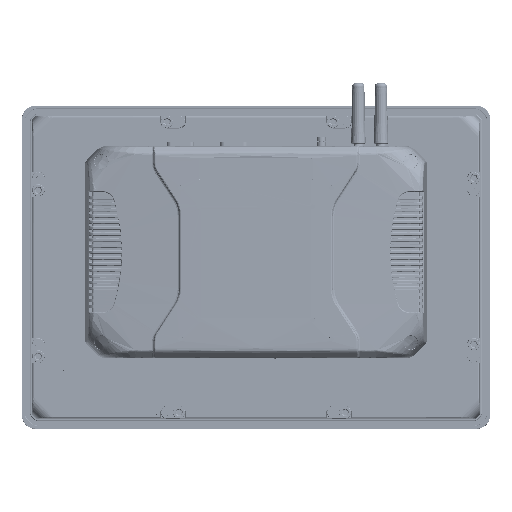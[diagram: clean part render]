
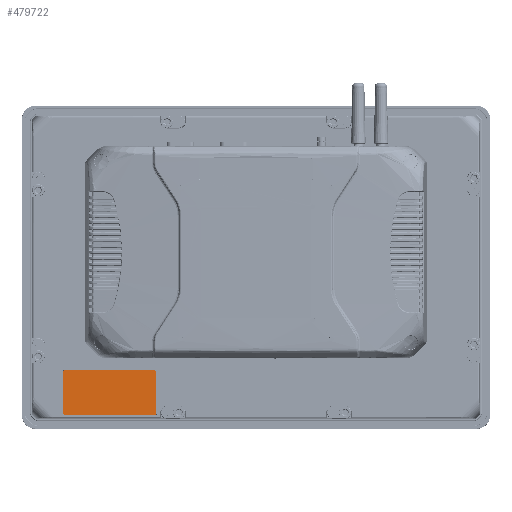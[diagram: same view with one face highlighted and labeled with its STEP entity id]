
A CAD part, top view. The second image highlights one B-rep face of the part: STEP entity #479722.
In plain terms, the highlighted planar face has unit normal (0, 0, 1).
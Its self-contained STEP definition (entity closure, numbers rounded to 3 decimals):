
#2326 = CARTESIAN_POINT ( 'NONE',  ( -132.615, -107.378, 319.75 ) ) ;
#2978 = CIRCLE ( 'NONE', #361884, 1. ) ;
#21067 = VERTEX_POINT ( 'NONE', #356686 ) ;
#33619 = DIRECTION ( 'NONE',  ( 0., 0., 1. ) ) ;
#52627 = DIRECTION ( 'NONE',  ( 0., 0., -1. ) ) ;
#62251 = ORIENTED_EDGE ( 'NONE', *, *, #161974, .T. ) ;
#67160 = VERTEX_POINT ( 'NONE', #2326 ) ;
#90164 = EDGE_CURVE ( 'NONE', #396988, #427215, #455721, .T. ) ;
#138700 = DIRECTION ( 'NONE',  ( 0., 0., 1. ) ) ;
#139627 = CARTESIAN_POINT ( 'NONE',  ( -72.015, -107.378, 319.75 ) ) ;
#150854 = DIRECTION ( 'NONE',  ( 0., 1., 0. ) ) ;
#161974 = EDGE_CURVE ( 'NONE', #198452, #67160, #371349, .T. ) ;
#163643 = FACE_OUTER_BOUND ( 'NONE', #334667, .T. ) ;
#172226 = CARTESIAN_POINT ( 'NONE',  ( -72.015, -78.778, 319.75 ) ) ;
#190777 = DIRECTION ( 'NONE',  ( 1., 0., 0. ) ) ;
#198452 = VERTEX_POINT ( 'NONE', #341198 ) ;
#198915 = DIRECTION ( 'NONE',  ( 0., 0., 1. ) ) ;
#202899 = CARTESIAN_POINT ( 'NONE',  ( -133.615, -78.778, 319.75 ) ) ;
#217426 = DIRECTION ( 'NONE',  ( -1., 0., 0. ) ) ;
#219895 = CARTESIAN_POINT ( 'NONE',  ( -133.615, -107.378, 319.75 ) ) ;
#235434 = CARTESIAN_POINT ( 'NONE',  ( -73.015, -106.378, 319.75 ) ) ;
#240295 = CIRCLE ( 'NONE', #619068, 1. ) ;
#260531 = CARTESIAN_POINT ( 'NONE',  ( -73.015, -107.378, 319.75 ) ) ;
#265731 = EDGE_CURVE ( 'NONE', #396988, #21067, #2978, .T. ) ;
#271362 = ORIENTED_EDGE ( 'NONE', *, *, #265731, .T. ) ;
#293650 = DIRECTION ( 'NONE',  ( -1., 0., 0. ) ) ;
#299951 = CIRCLE ( 'NONE', #555901, 1. ) ;
#305957 = ORIENTED_EDGE ( 'NONE', *, *, #539939, .T. ) ;
#318514 = VECTOR ( 'NONE', #190777, 1000. ) ;
#334667 = EDGE_LOOP ( 'NONE', ( #707109, #271362, #667953, #576533, #593580, #62251, #519658, #305957 ) ) ;
#341198 = CARTESIAN_POINT ( 'NONE',  ( -133.615, -106.378, 319.75 ) ) ;
#356686 = CARTESIAN_POINT ( 'NONE',  ( -73.015, -77.778, 319.75 ) ) ;
#361884 = AXIS2_PLACEMENT_3D ( 'NONE', #379836, #33619, #437962 ) ;
#364131 = EDGE_CURVE ( 'NONE', #198452, #568220, #477836, .T. ) ;
#371349 = CIRCLE ( 'NONE', #615281, 1. ) ;
#374552 = EDGE_CURVE ( 'NONE', #420448, #21067, #625862, .T. ) ;
#379836 = CARTESIAN_POINT ( 'NONE',  ( -73.015, -78.778, 319.75 ) ) ;
#396988 = VERTEX_POINT ( 'NONE', #172226 ) ;
#398736 = CARTESIAN_POINT ( 'NONE',  ( -102.815, -92.578, 319.75 ) ) ;
#400628 = EDGE_CURVE ( 'NONE', #420448, #568220, #299951, .T. ) ;
#420448 = VERTEX_POINT ( 'NONE', #494987 ) ;
#427215 = VERTEX_POINT ( 'NONE', #722818 ) ;
#437962 = DIRECTION ( 'NONE',  ( -1., 0., 0. ) ) ;
#441120 = EDGE_CURVE ( 'NONE', #674792, #67160, #465224, .T. ) ;
#455721 = LINE ( 'NONE', #139627, #609395 ) ;
#457030 = DIRECTION ( 'NONE',  ( -1., 0., 0. ) ) ;
#465224 = LINE ( 'NONE', #219895, #736800 ) ;
#477836 = LINE ( 'NONE', #484655, #631557 ) ;
#479722 = ADVANCED_FACE ( 'NONE', ( #163643 ), #512506, .F. ) ;
#484655 = CARTESIAN_POINT ( 'NONE',  ( -133.615, -107.378, 319.75 ) ) ;
#484948 = CARTESIAN_POINT ( 'NONE',  ( -132.615, -106.378, 319.75 ) ) ;
#485850 = DIRECTION ( 'NONE',  ( 0., -1., 0. ) ) ;
#494987 = CARTESIAN_POINT ( 'NONE',  ( -132.615, -77.778, 319.75 ) ) ;
#512506 = PLANE ( 'NONE',  #634607 ) ;
#519658 = ORIENTED_EDGE ( 'NONE', *, *, #441120, .F. ) ;
#536874 = CARTESIAN_POINT ( 'NONE',  ( -133.615, -77.778, 319.75 ) ) ;
#539939 = EDGE_CURVE ( 'NONE', #674792, #427215, #240295, .T. ) ;
#542935 = DIRECTION ( 'NONE',  ( -1., 0., 0. ) ) ;
#544927 = CARTESIAN_POINT ( 'NONE',  ( -132.615, -78.778, 319.75 ) ) ;
#555901 = AXIS2_PLACEMENT_3D ( 'NONE', #544927, #198915, #603126 ) ;
#568220 = VERTEX_POINT ( 'NONE', #202899 ) ;
#576533 = ORIENTED_EDGE ( 'NONE', *, *, #400628, .T. ) ;
#593580 = ORIENTED_EDGE ( 'NONE', *, *, #364131, .F. ) ;
#603126 = DIRECTION ( 'NONE',  ( -1., 0., 0. ) ) ;
#609395 = VECTOR ( 'NONE', #485850, 1000. ) ;
#615281 = AXIS2_PLACEMENT_3D ( 'NONE', #484948, #138700, #542935 ) ;
#619068 = AXIS2_PLACEMENT_3D ( 'NONE', #235434, #639787, #293650 ) ;
#625862 = LINE ( 'NONE', #536874, #318514 ) ;
#631557 = VECTOR ( 'NONE', #150854, 1000. ) ;
#634607 = AXIS2_PLACEMENT_3D ( 'NONE', #398736, #52627, #457030 ) ;
#639787 = DIRECTION ( 'NONE',  ( 0., 0., 1. ) ) ;
#667953 = ORIENTED_EDGE ( 'NONE', *, *, #374552, .F. ) ;
#674792 = VERTEX_POINT ( 'NONE', #260531 ) ;
#707109 = ORIENTED_EDGE ( 'NONE', *, *, #90164, .F. ) ;
#722818 = CARTESIAN_POINT ( 'NONE',  ( -72.015, -106.378, 319.75 ) ) ;
#736800 = VECTOR ( 'NONE', #217426, 1000. ) ;
